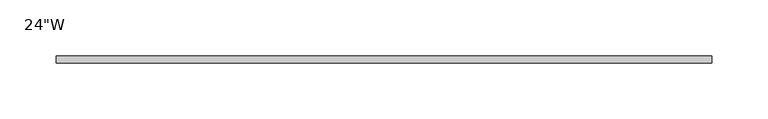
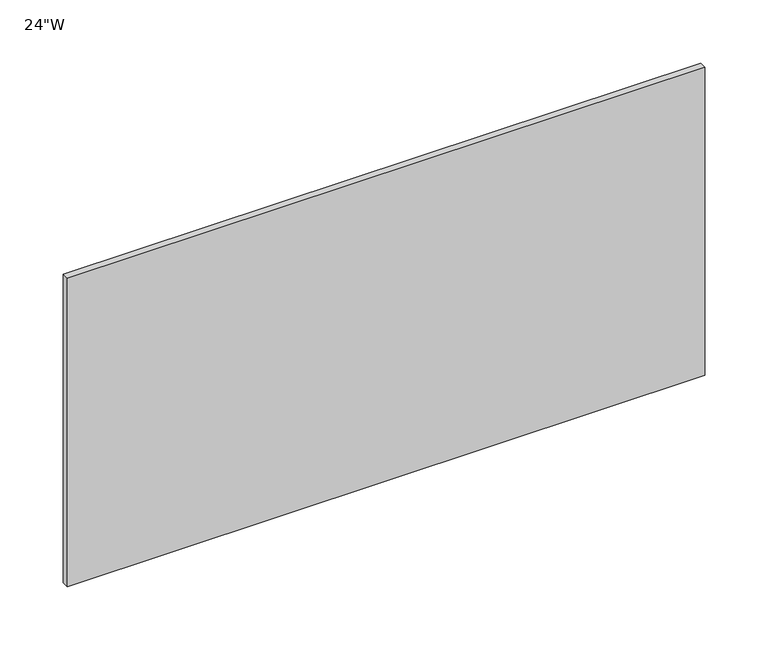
"""IFC4 building model written with IfcOpenShell, lengths in millimetres: furniture geometry."""

from ifc_helpers import new_model, si_unit, frame, origin, place, context, project, spatial, polyline, outline, extrude, source, transform, mapped, element, save


def furniture_c8015b5a(model_context):
    return source(origin(), model_context, "Body", "SweptSolid", [
        extrude(outline(polyline([(292.1, -6.35), (-292.1, -6.35), (-292.1, 0.0), (292.1, 0.0), (292.1, -6.35)])), frame((0.0, 0.0, 1682.75), z_axis=(0.0, 0.0, 1.0), x_axis=(1.0, 0.0, 0.0)), (0.0, 0.0, 1.0), 298.45),
    ])


if __name__ == "__main__":
    model = new_model("IFC4")
    model_context = context("Model", 3, world=origin())
    ifc_project = project(units=[si_unit("LENGTHUNIT", "METRE", prefix="MILLI")], contexts=[model_context])
    site = spatial("IfcSite", under=ifc_project)
    building = spatial("IfcBuilding", under=site)
    placement = place(None, origin())
    furniture_shape = furniture_c8015b5a(model_context)
    element("IfcFurniture", 1, ObjectType="HermanMiller_ActionOffice_A3390_B-StyleFlipperDoorBackPanel : 24\"W", at=placement, inside=building, context=model_context, shape_type="MappedRepresentation", body=[
        mapped(furniture_shape, transform((0.0, 0.0, 0.0), x_axis=(1.0, 0.0, 0.0), y_axis=(0.0, 1.0, 0.0), z_axis=(0.0, 0.0, 1.0))),
    ])
    save(model, "model.ifc")
